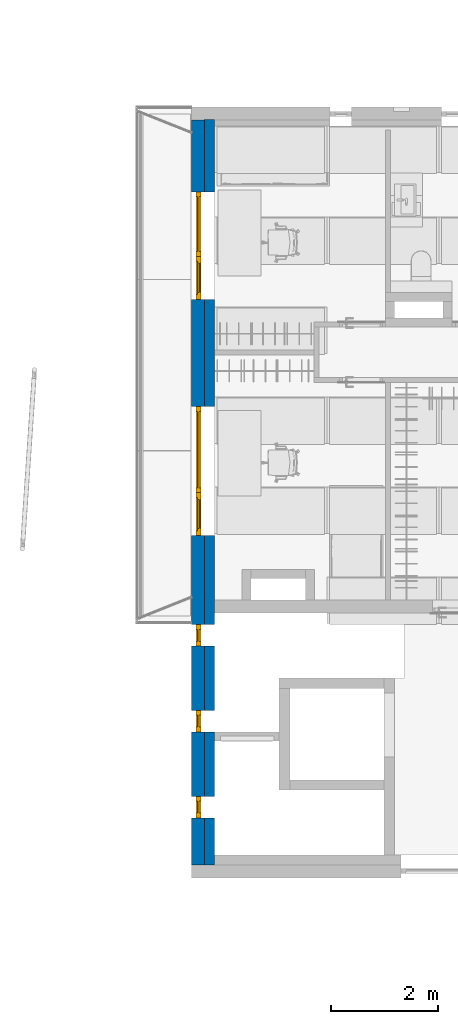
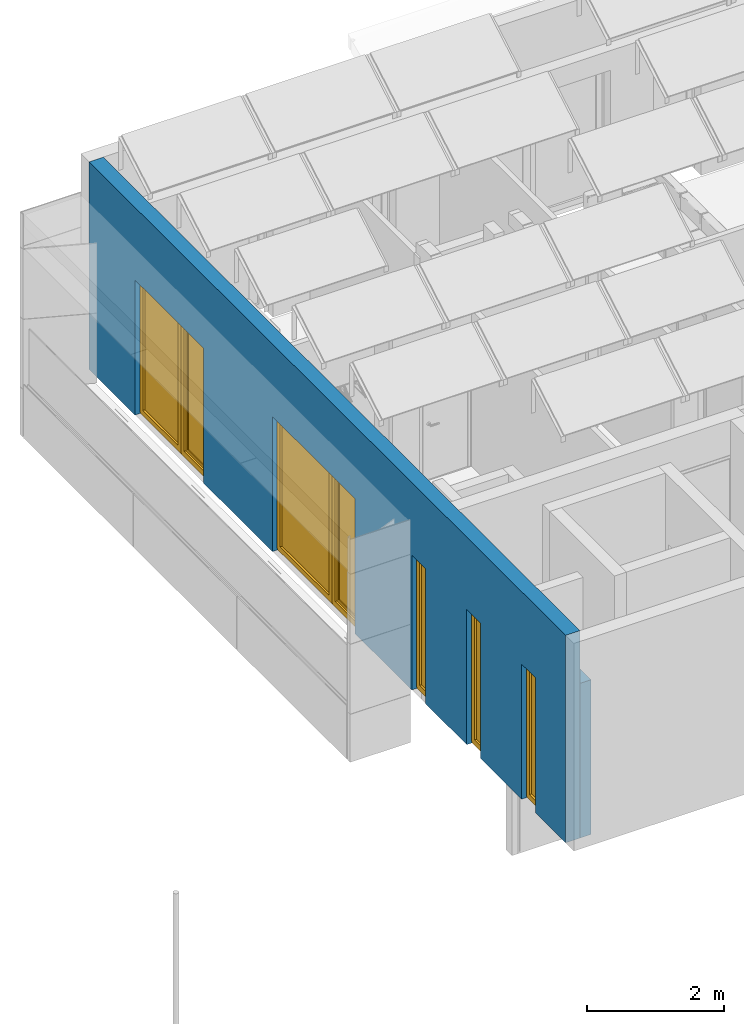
# One storey, part 4 of 57: 7 windows, 2 walls, 14 openings.
"""IFC2X3 building model written with IfcOpenShell, lengths in millimetres."""

import ifcopenshell
import ifcopenshell.guid

model = None  # the IFC model being written
_history = None  # IfcOwnerHistory: only IFC2X3 demands one
_inside = {}  # id of a spatial element -> (the spatial element, [elements in it])
_under = {}  # id of a project, library or spatial element -> (it, [spatial elements below it])
_declared = {}  # id of a project -> (the project, [libraries it declares])
_typed = {}  # id of a type object -> (the type object, [elements of that type])
_made_of = {}  # id of a material, layer set ... -> (it, [elements and type objects made of it])


def new_model(schema):
    """Start an empty IFC model of exactly this schema.

    Asked for "IFC4X3", IfcOpenShell would pick the latest addendum, in which some entities
    have other attributes; the version numbers below select the first issue.
    IFC2X3 requires an IfcOwnerHistory on every rooted entity: one is made here for all.
    """
    global model, _history
    if schema == "IFC4X3":
        model = ifcopenshell.file(schema_version=(4, 3, 0, 0))
    else:
        model = ifcopenshell.file(schema=schema)
    _inside.clear()
    _under.clear()
    _declared.clear()
    _typed.clear()
    _made_of.clear()
    _history = None
    if model.schema == "IFC2X3":
        org = make("IfcOrganization", Name="unknown")
        user = make(
            "IfcPersonAndOrganization",
            ThePerson=make("IfcPerson", FamilyName="unknown"),
            TheOrganization=org,
        )
        app = make(
            "IfcApplication",
            ApplicationDeveloper=org,
            Version="unknown",
            ApplicationFullName="unknown",
            ApplicationIdentifier="unknown",
        )
        _history = make(
            "IfcOwnerHistory",
            OwningUser=user,
            OwningApplication=app,
            ChangeAction="ADDED",
            CreationDate=0,
        )
    return model


def make(cls, **values):
    """One entity of the class cls with the attributes given. An attribute that is None is left unset."""
    return model.create_entity(
        cls, **{name: value for name, value in values.items() if value is not None}
    )


def entity(cls, *values):
    """Any entity or typed value of the class cls, its attributes in the order of the schema. None: left unset."""
    e = model.create_entity(cls)
    for i, value in enumerate(values):
        if value is not None:
            e[i] = value
    return e


def rooted(cls, **values):
    """An entity with a GlobalId (a new one), such as an element, a storey or a relation."""
    return make(cls, GlobalId=ifcopenshell.guid.new(), OwnerHistory=_history, **values)


def si_unit(unit_type, name, prefix=None):
    """IfcSIUnit, for example si_unit("LENGTHUNIT", "METRE", prefix="MILLI")."""
    return make("IfcSIUnit", UnitType=unit_type, Prefix=prefix, Name=name)


def converted_unit(unit_type, name, factor, base, dimensions=None, offset=None):
    """IfcConversionBasedUnit, such as the inch: factor (a typed value) times the base unit."""
    return make(
        "IfcConversionBasedUnit"
        if offset is None
        else "IfcConversionBasedUnitWithOffset",
        ConversionOffset=offset,
        Dimensions=None
        if dimensions is None
        else entity("IfcDimensionalExponents", *dimensions),
        UnitType=unit_type,
        Name=name,
        ConversionFactor=make(
            "IfcMeasureWithUnit", ValueComponent=factor, UnitComponent=base
        ),
    )


def assignment(units):
    """IfcUnitAssignment: the units of a project."""
    return None if units is None else make("IfcUnitAssignment", Units=units)


def point(xyz):
    """IfcCartesianPoint."""
    return None if xyz is None else make("IfcCartesianPoint", Coordinates=xyz)


def direction(xyz):
    """IfcDirection."""
    return None if xyz is None else make("IfcDirection", DirectionRatios=xyz)


def frame(location, z_axis=None, x_axis=None):
    """IfcAxis2Placement3D, a coordinate frame: its origin and axes. An axis left out is left unset."""
    return make(
        "IfcAxis2Placement3D",
        Location=point(location),
        Axis=direction(z_axis),
        RefDirection=direction(x_axis),
    )


def frame_2d(location, x_axis=None):
    """IfcAxis2Placement2D, a coordinate frame in the plane: its origin and x axis."""
    return make(
        "IfcAxis2Placement2D", Location=point(location), RefDirection=direction(x_axis)
    )


def origin():
    """The frame at (0, 0, 0) with its axes left unset."""
    return frame((0.0, 0.0, 0.0))


def place(relative_to, where):
    """IfcLocalPlacement: puts the frame where relative to a parent placement (None: the world)."""
    return make(
        "IfcLocalPlacement", PlacementRelTo=relative_to, RelativePlacement=where
    )


def context(
    kind, dimensions, precision=None, world=None, true_north=None, identifier=None
):
    """IfcGeometricRepresentationContext, for example the 3D "Model" context."""
    return make(
        "IfcGeometricRepresentationContext",
        ContextIdentifier=identifier,
        ContextType=kind,
        CoordinateSpaceDimension=dimensions,
        Precision=precision,
        WorldCoordinateSystem=world,
        TrueNorth=true_north,
    )


def subcontext(parent, identifier, kind, view, scale=None):
    """IfcGeometricRepresentationSubContext, for example "Body" below "Model"."""
    return make(
        "IfcGeometricRepresentationSubContext",
        ContextIdentifier=identifier,
        ContextType=kind,
        ParentContext=parent,
        TargetScale=scale,
        TargetView=view,
    )


def project(units=None, contexts=None):
    """IfcProject with its units and contexts."""
    return rooted(
        "IfcProject",
        Name="project",
        RepresentationContexts=contexts,
        UnitsInContext=assignment(units),
    )


def spatial(cls, under=None, at=None, **own):
    """A site, building, storey or space (cls), placed at a placement, below another one or the project."""
    s = rooted(cls, ObjectPlacement=at, **own)
    if under is not None:
        _under.setdefault(under.id(), (under, []))[1].append(s)
    return s


def polyline(points):
    """IfcPolyline through the points."""
    return make("IfcPolyline", Points=[point(p) for p in points])


def profile(cls, at=None, kind="AREA", **sizes):
    """A parametric profile (cls). Its sizes go by their IFC names, for example OverallWidth=200.0."""
    return make(cls, ProfileType=kind, Position=at, **sizes)


def rectangle(**sizes):
    """IfcRectangleProfileDef."""
    return profile("IfcRectangleProfileDef", **sizes)


def extrude(swept, where, along, depth):
    """IfcExtrudedAreaSolid: the profile swept, set in the frame where, extruded along a direction by depth."""
    return make(
        "IfcExtrudedAreaSolid",
        SweptArea=swept,
        Position=where,
        ExtrudedDirection=direction(along),
        Depth=depth,
    )


def clip(a, b, op="DIFFERENCE"):
    """IfcBooleanClippingResult: the solid a cut by the half space b."""
    return make(
        "IfcBooleanClippingResult", Operator=op, FirstOperand=a, SecondOperand=b
    )


def bounded_halfspace(plane, agree, where, boundary):
    """IfcPolygonalBoundedHalfSpace: a half space limited to a polygon's prism."""
    return make(
        "IfcPolygonalBoundedHalfSpace",
        BaseSurface=make("IfcPlane", Position=plane),
        AgreementFlag=agree,
        Position=where,
        PolygonalBoundary=boundary,
    )


def faces_of(points, faces, orient=None, outer=None):
    """IfcFace entities. A face is a list of loops; a loop is a list of indices into points, from 0.

    orient and outer hold one flag for each loop. By default every Orientation is true, the
    first loop of a face is its IfcFaceOuterBound and the others are IfcFaceBound.
    """
    made = []
    for i, loops in enumerate(faces):
        bounds = []
        for j, loop in enumerate(loops):
            is_outer = j == 0 if outer is None else outer[i][j]
            bounds.append(
                make(
                    "IfcFaceOuterBound" if is_outer else "IfcFaceBound",
                    Bound=make("IfcPolyLoop", Polygon=[points[k] for k in loop]),
                    Orientation=True if orient is None else orient[i][j],
                )
            )
        made.append(make("IfcFace", Bounds=bounds))
    return made


def faceted_brep(points, faces, orient=None, outer=None, voids=None):
    """IfcFacetedBrep: a solid bounded by flat faces; with voids (closed shells), ...WithVoids."""
    shared = [point(p) for p in points]
    hull = make("IfcClosedShell", CfsFaces=faces_of(shared, faces, orient, outer))
    if voids is None:
        return make("IfcFacetedBrep", Outer=hull)
    return make(
        "IfcFacetedBrepWithVoids",
        Outer=hull,
        Voids=[
            make(cls, CfsFaces=faces_of(shared, fs, o, b)) for cls, fs, o, b in voids
        ],
    )


def shape(context_of_items, identifier, shape_type, items):
    """IfcShapeRepresentation: the items that make up one representation, for example the "Body"."""
    return make(
        "IfcShapeRepresentation",
        ContextOfItems=context_of_items,
        RepresentationIdentifier=identifier,
        RepresentationType=shape_type,
        Items=items,
    )


def source(mapping_origin, context_of_items, identifier, shape_type, items):
    """IfcRepresentationMap: a shape defined once, which mapped items show again and again."""
    return make(
        "IfcRepresentationMap",
        MappingOrigin=mapping_origin,
        MappedRepresentation=shape(context_of_items, identifier, shape_type, items),
    )


def transform(
    local_origin,
    x_axis=None,
    y_axis=None,
    z_axis=None,
    scale=None,
    scale2=None,
    scale3=None,
    uniform=True,
):
    """IfcCartesianTransformationOperator3D, or its non-uniform kind. x_axis, y_axis, z_axis: its Axis1, 2, 3."""
    if uniform:
        return make(
            "IfcCartesianTransformationOperator3D",
            Axis1=direction(x_axis),
            Axis2=direction(y_axis),
            LocalOrigin=point(local_origin),
            Scale=scale,
            Axis3=direction(z_axis),
        )
    return make(
        "IfcCartesianTransformationOperator3DnonUniform",
        Axis1=direction(x_axis),
        Axis2=direction(y_axis),
        LocalOrigin=point(local_origin),
        Scale=scale,
        Axis3=direction(z_axis),
        Scale2=scale2,
        Scale3=scale3,
    )


def mapped(mapping_source, mapping_target):
    """IfcMappedItem: shows the shape of a source again, moved by a transform."""
    return make(
        "IfcMappedItem", MappingSource=mapping_source, MappingTarget=mapping_target
    )


def material(Name=None, Category=None):
    """IfcMaterial."""
    return make("IfcMaterial", Name=Name, Category=Category)


def material_list(materials):
    """IfcMaterialList."""
    return make("IfcMaterialList", Materials=materials)


def layer(
    of_material, thickness, ventilated=None, Name=None, Category=None, Priority=None
):
    """IfcMaterialLayer: one layer of a wall or slab, of a material (None: an air gap)."""
    return make(
        "IfcMaterialLayer",
        Material=of_material,
        LayerThickness=thickness,
        IsVentilated=ventilated,
        Name=Name,
        Category=Category,
        Priority=Priority,
    )


def layer_set(layers, Name=None):
    """IfcMaterialLayerSet."""
    return make("IfcMaterialLayerSet", MaterialLayers=layers, LayerSetName=Name)


def layer_usage(for_layer_set, set_direction, sense, offset, extent=None):
    """IfcMaterialLayerSetUsage: how a layer set lies in its element."""
    return make(
        "IfcMaterialLayerSetUsage",
        ForLayerSet=for_layer_set,
        LayerSetDirection=set_direction,
        DirectionSense=sense,
        OffsetFromReferenceLine=offset,
        ReferenceExtent=extent,
    )


def made_of(thing, what):
    """Note that an element or type object is made of a material, layer set ...; save() writes the relation."""
    if what is not None:
        _made_of.setdefault(what.id(), (what, []))[1].append(thing)
    return thing


def type_object(cls, material=None, **own):
    """A type object (cls), such as IfcWallType, which elements share."""
    return made_of(rooted(cls, **own), material)


def type_shapes(of_type, sources):
    """Give a type object the sources (RepresentationMaps) that its elements show as mapped items."""
    of_type.RepresentationMaps = sources


def element(
    cls,
    number,
    at=None,
    inside=None,
    cuts=None,
    type_object=None,
    material=None,
    context=None,
    identifier="Body",
    shape_type=None,
    held_by="IfcProductDefinitionShape",
    body=None,
    shapes=None,
    **own,
):
    """One element of the class cls, such as IfcWall. Its Tag is "e" and its number.

    at: its placement. inside: the storey or other place that contains it. cuts: it is an
    opening in that element (IfcRelVoidsElement). A single representation is given by context,
    identifier, shape_type and body (its items); several are given by shapes. held_by: the class
    of the entity that holds the representations. save() writes the other relations.
    """
    e = rooted(cls, Tag="e%d" % number, ObjectPlacement=at, **own)
    if body is not None:
        shapes = [shape(context, identifier, shape_type, body)]
    if shapes is not None:
        e.Representation = make(held_by, Representations=shapes)
    if inside is not None:
        _inside.setdefault(inside.id(), (inside, []))[1].append(e)
    if cuts is not None:
        rooted(
            "IfcRelVoidsElement", RelatingBuildingElement=cuts, RelatedOpeningElement=e
        )
    if type_object is not None:
        _typed.setdefault(type_object.id(), (type_object, []))[1].append(e)
    return made_of(e, material)


def fill(opening, filler):
    """IfcRelFillsElement: the door or window that sits in an opening."""
    return rooted(
        "IfcRelFillsElement",
        RelatingOpeningElement=opening,
        RelatedBuildingElement=filler,
    )


def aggregate(whole, parts):
    """IfcRelAggregates: a whole, such as a stair, and the parts it consists of."""
    return rooted("IfcRelAggregates", RelatingObject=whole, RelatedObjects=parts)


def save(model, path):
    """Write the relations noted so far, then the file.

    IfcRelAggregates (storeys below a building ...), IfcRelContainedInSpatialStructure (elements
    in a storey), IfcRelDefinesByType, IfcRelAssociatesMaterial and IfcRelDeclares: one each for
    every whole, place, type object, material and project.
    """
    for whole, parts in _under.values():
        aggregate(whole, parts)
    for where, things in _inside.values():
        rooted(
            "IfcRelContainedInSpatialStructure",
            RelatedElements=things,
            RelatingStructure=where,
        )
    for kind, things in _typed.values():
        rooted("IfcRelDefinesByType", RelatedObjects=things, RelatingType=kind)
    for what, things in _made_of.values():
        rooted("IfcRelAssociatesMaterial", RelatedObjects=things, RelatingMaterial=what)
    for by, libraries in _declared.values():
        rooted("IfcRelDeclares", RelatingContext=by, RelatedDefinitions=libraries)
    model.write(path)


model = new_model("IFC2X3")

# Units and contexts
model_context = context("Model", 3, precision=0.01, world=origin(), true_north=direction((6.123233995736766e-17, 1.0)))
plan_context = context("Plan", 3, precision=0.01, world=origin(), true_north=direction((6.123233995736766e-17, 1.0)))
body_context = subcontext(model_context, "Body", "Model", "MODEL_VIEW")
ifc_project = project(units=[si_unit("LENGTHUNIT", "METRE", prefix="MILLI"), converted_unit("PLANEANGLEUNIT", "DEGREE", entity("IfcPlaneAngleMeasure", 0.017453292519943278), si_unit("PLANEANGLEUNIT", "RADIAN"), dimensions=[0, 0, 0, 0, 0, 0, 0]), si_unit("AREAUNIT", "SQUARE_METRE")], contexts=[model_context, plan_context])

# Site, building, storey
site_placement = place(None, origin())
site = spatial("IfcSite", under=ifc_project, at=site_placement, Name="Default", CompositionType="ELEMENT")
building_placement = place(site_placement, origin())
building = spatial("IfcBuilding", under=site, at=building_placement, CompositionType="ELEMENT")
storey_placement = place(building_placement, frame((0.0, 0.0, 12811.000000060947)))
storey = spatial("IfcBuildingStorey", under=building, at=storey_placement, Name="5K", CompositionType="ELEMENT", Elevation=12811.000000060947)

# Wall, openings
ifc_material_1 = material(Name="_K. Väisviimistlus. Krohv. Valge")
ifc_layer_1 = layer(ifc_material_1, 5.0)
ifc_material_2 = material(Name="_K. Müüritis. Väikeplokk. Betoon-õõnesplokk")
ifc_layer_2 = layer(ifc_material_2, 190.00000000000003)
ifc_layer_3 = layer(ifc_material_1, 5.0)
ifc_layer_set_1 = layer_set([ifc_layer_1, ifc_layer_2, ifc_layer_3], Name="Basic Wall:SS-01. 190")
ifc_layer_usage_1 = layer_usage(ifc_layer_set_1, "AXIS2", "NEGATIVE", 100.00000000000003)
wall_type_1 = type_object("IfcWallType", Name="Basic Wall:SS-01. 190", PredefinedType="STANDARD", material=ifc_layer_set_1)
wall_1_placement = place(storey_placement, frame((-100.0, 1710.0, 0.0), z_axis=(0.0, 0.0, 1.0), x_axis=(0.0, 1.0, 0.0)))
wall_1 = element("IfcWallStandardCase", 1, at=wall_1_placement, inside=storey, type_object=wall_type_1, material=ifc_layer_usage_1, Name="Basic Wall:SS-01. 190", ObjectType="Basic Wall:SS-01. 190", context=body_context, shape_type="Clipping", body=[
    clip(clip(extrude(rectangle(XDim=13889.999999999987, YDim=200.00000000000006, at=frame_2d((6944.999999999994, 2.1316282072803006e-14), x_axis=(-1.0, 0.0))), origin(), (0.0, 0.0, 1.0), 2749.998712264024), bounded_halfspace(frame((13880.0, 90.0, 2749.9987122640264), z_axis=(0.0, -1.0, 0.0), x_axis=(1.0, 0.0, 0.0)), True, frame((13880.0, 90.0, 2749.9987122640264), z_axis=(0.0, -1.0, 0.0), x_axis=(1.0, 0.0, 0.0)), polyline([(0.0, 0.0), (-13880.0, 0.0), (-13880.0, -2749.9987122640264), (-13000.0, -2749.9987122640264), (-13000.0, -349.99871226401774), (-12600.0, -349.9987122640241), (-12600.0, -2749.9987122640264), (-11400.0, -2749.9987122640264), (-11400.0, -349.99871226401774), (-11000.0, -349.9987122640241), (-11000.0, -2749.9987122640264), (-9800.0, -2749.9987122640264), (-9800.0, -349.99871226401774), (-9400.0, -349.9987122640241), (-9400.0, -2749.9987122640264), (-7740.0, -2749.9987122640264), (-7740.0, -349.99871226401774), (-5340.0, -349.9987122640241), (-5340.0, -2749.9987122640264), (-3340.0, -2749.9987122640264), (-3340.0, -349.99871226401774), (-1340.0, -349.9987122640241), (-1340.0, -2749.9987122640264), (0.0, -2749.9987122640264), (0.0, 0.0)]))), bounded_halfspace(frame((13880.0, 90.0, 0.0), z_axis=(-1.0, 0.0, 0.0), x_axis=(0.0, -1.0, 0.0)), False, frame((13880.0, 90.0, 0.0), z_axis=(-1.0, 0.0, 0.0), x_axis=(0.0, -1.0, 0.0)), polyline([(0.0, 0.0), (0.0, 2749.9987122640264), (-10.0, 2749.9987122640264), (-10.0, 0.0), (0.0, 0.0)]))),
])
opening_1_placement = place(wall_1_placement, frame((-1710.0, -100.0, 0.0)))
element("IfcOpeningElement", 2, at=opening_1_placement, cuts=wall_1, Name="Basic Wall:SS-01. 190", ObjectType="Opening", context=body_context, shape_type="Brep", body=[
    faceted_brep([(13050.0, 450.0, 2400.0), (13050.0, -244.0, 2400.0), (13050.0, -244.0, 0.0), (13050.0, 340.0, 0.0), (13050.0, 350.0, 0.0), (13050.0, 450.0, 0.0), (12250.0, 450.0, 2400.0), (12250.0, -244.0, 2400.0), (12250.0, 450.0, 0.0), (12250.0, 350.0, 0.0), (12250.0, 340.0, 0.0), (12250.0, -244.0, 0.0)], [[[0, 1, 2, 3, 4, 5]], [[6, 7, 1, 0]], [[8, 9, 10, 11, 7, 6]], [[5, 4, 3, 2, 11, 10, 9, 8]], [[6, 0, 5, 8]], [[7, 11, 2, 1]]]),
])
opening_2_placement = place(wall_1_placement, frame((-1710.0, -100.0, 0.0)))
element("IfcOpeningElement", 3, at=opening_2_placement, cuts=wall_1, Name="Basic Wall:SS-01. 190", ObjectType="Opening", context=body_context, shape_type="Brep", body=[
    faceted_brep([(8650.0, 450.0, 2400.0), (8650.0, -244.0, 2400.0), (8650.0, -244.0, 0.0), (8650.0, 340.0, 0.0), (8650.0, 350.0, 0.0), (8650.0, 450.0, 0.0), (7850.0, 450.0, 2400.0), (7850.0, -244.0, 2400.0), (7850.0, 450.0, 0.0), (7850.0, 350.0, 0.0), (7850.0, 340.0, 0.0), (7850.0, -244.0, 0.0)], [[[0, 1, 2, 3, 4, 5]], [[6, 7, 1, 0]], [[8, 9, 10, 11, 7, 6]], [[5, 4, 3, 2, 11, 10, 9, 8]], [[6, 0, 5, 8]], [[7, 11, 2, 1]]]),
])
opening_3_placement = place(wall_1_placement, frame((-1710.0, -100.0, 0.0)))
element("IfcOpeningElement", 4, at=opening_3_placement, cuts=wall_1, Name="Basic Wall:SS-01. 190", ObjectType="Opening", context=body_context, shape_type="Brep", body=[
    faceted_brep([(6190.0, 450.0, 2400.0), (6190.0, -244.0, 2400.0), (6190.0, -244.0, 0.0), (6190.0, 340.0, 0.0), (6190.0, 350.0, 0.0), (6190.0, 450.0, 0.0), (5790.0, 450.0, 2400.0), (5790.0, -244.0, 2400.0), (5790.0, 450.0, 0.0), (5790.0, 350.0, 0.0), (5790.0, 340.0, 0.0), (5790.0, -244.0, 0.0)], [[[0, 1, 2, 3, 4, 5]], [[6, 7, 1, 0]], [[8, 9, 10, 11, 7, 6]], [[5, 4, 3, 2, 11, 10, 9, 8]], [[6, 0, 5, 8]], [[7, 11, 2, 1]]]),
])
opening_4_placement = place(wall_1_placement, frame((-1710.0, -100.0, 0.0)))
element("IfcOpeningElement", 5, at=opening_4_placement, cuts=wall_1, Name="Basic Wall:SS-01. 190", ObjectType="Opening", context=body_context, shape_type="Brep", body=[
    faceted_brep([(4590.0, 450.0, 2400.0), (4590.0, -244.0, 2400.0), (4590.0, -244.0, 0.0), (4590.0, 340.0, 0.0), (4590.0, 350.0, 0.0), (4590.0, 450.0, 0.0), (4190.0, 450.0, 2400.0), (4190.0, -244.0, 2400.0), (4190.0, 450.0, 0.0), (4190.0, 350.0, 0.0), (4190.0, 340.0, 0.0), (4190.0, -244.0, 0.0)], [[[0, 1, 2, 3, 4, 5]], [[6, 7, 1, 0]], [[8, 9, 10, 11, 7, 6]], [[5, 4, 3, 2, 11, 10, 9, 8]], [[6, 0, 5, 8]], [[7, 11, 2, 1]]]),
])
opening_5_placement = place(wall_1_placement, frame((-1710.0, -100.0, 0.0)))
element("IfcOpeningElement", 6, at=opening_5_placement, cuts=wall_1, Name="Basic Wall:SS-01. 190", ObjectType="Opening", context=body_context, shape_type="Brep", body=[
    faceted_brep([(2990.0, 450.0, 2400.0), (2990.0, -244.0, 2400.0), (2990.0, -244.0, 0.0), (2990.0, 340.0, 0.0), (2990.0, 350.0, 0.0), (2990.0, 450.0, 0.0), (2590.0, 450.0, 2400.0), (2590.0, -244.0, 2400.0), (2590.0, 450.0, 0.0), (2590.0, 350.0, 0.0), (2590.0, 340.0, 0.0), (2590.0, -244.0, 0.0)], [[[0, 1, 2, 3, 4, 5]], [[6, 7, 1, 0]], [[8, 9, 10, 11, 7, 6]], [[5, 4, 3, 2, 11, 10, 9, 8]], [[6, 0, 5, 8]], [[7, 11, 2, 1]]]),
])
opening_6_placement = place(wall_1_placement, frame((-1710.0, -100.0, 0.0)))
element("IfcOpeningElement", 7, at=opening_6_placement, cuts=wall_1, Name="Basic Wall:SS-01. 190", ObjectType="Opening", context=body_context, shape_type="Brep", body=[
    faceted_brep([(10250.0, 450.0, 2400.0), (10250.0, -244.0, 2400.0), (10250.0, -244.0, 0.0), (10250.0, 340.0, 0.0), (10250.0, 350.0, 0.0), (10250.0, 450.0, 0.0), (8650.0, 450.0, 2400.0), (8650.0, -244.0, 2400.0), (8650.0, 450.0, 0.0), (8650.0, 350.0, 0.0), (8650.0, 340.0, 0.0), (8650.0, -244.0, 0.0)], [[[0, 1, 2, 3, 4, 5]], [[6, 7, 1, 0]], [[8, 9, 10, 11, 7, 6]], [[5, 4, 3, 2, 11, 10, 9, 8]], [[6, 0, 5, 8]], [[7, 11, 2, 1]]]),
])
opening_7_placement = place(wall_1_placement, frame((-1710.0, -100.0, 0.0)))
element("IfcOpeningElement", 8, at=opening_7_placement, cuts=wall_1, Name="Basic Wall:SS-01. 190", ObjectType="Opening", context=body_context, shape_type="Brep", body=[
    faceted_brep([(14250.0, 450.0, 2400.0), (14250.0, -244.0, 2400.0), (14250.0, -244.0, 0.0), (14250.0, 340.0, 0.0), (14250.0, 350.0, 0.0), (14250.0, 450.0, 0.0), (13050.0, 450.0, 2400.0), (13050.0, -244.0, 2400.0), (13050.0, 450.0, 0.0), (13050.0, 350.0, 0.0), (13050.0, 340.0, 0.0), (13050.0, -244.0, 0.0)], [[[0, 1, 2, 3, 4, 5]], [[6, 7, 1, 0]], [[8, 9, 10, 11, 7, 6]], [[5, 4, 3, 2, 11, 10, 9, 8]], [[6, 0, 5, 8]], [[7, 11, 2, 1]]]),
])

# Wall, openings, windows
ifc_layer_4 = layer(ifc_material_1, 10.0)
ifc_material_3 = material(Name="_K. Soojustus. EPS Silver")
ifc_layer_5 = layer(ifc_material_3, 230.0)
ifc_layer_set_2 = layer_set([ifc_layer_4, ifc_layer_5], Name="Basic Wall:VS-01")
ifc_layer_usage_2 = layer_usage(ifc_layer_set_2, "AXIS2", "NEGATIVE", 120.0)
wall_type_2 = type_object("IfcWallType", Name="Basic Wall:VS-01", PredefinedType="STANDARD", material=ifc_layer_set_2)
wall_2_placement = place(storey_placement, frame((-310.0, 1710.0, 0.0), z_axis=(0.0, 0.0, 1.0), x_axis=(0.0, 1.0, 0.0)))
wall_2 = element("IfcWallStandardCase", 9, at=wall_2_placement, inside=storey, type_object=wall_type_2, material=ifc_layer_usage_2, Name="Basic Wall:VS-01", ObjectType="Basic Wall:VS-01", context=body_context, shape_type="SweptSolid", body=[
    extrude(rectangle(XDim=13879.999999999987, YDim=240.0, at=frame_2d((6939.999999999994, 0.0), x_axis=(-1.0, 0.0))), origin(), (0.0, 0.0, 1.0), 3688.9999999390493),
])
opening_8_placement = place(wall_2_placement, frame((-1710.0, -310.0, 0.0), z_axis=(0.0, 0.0, 1.0), x_axis=(0.0, -1.0, 0.0)))
opening_8 = element("IfcOpeningElement", 10, at=opening_8_placement, cuts=wall_2, Name="Basic Wall:VS-01", ObjectType="Opening", context=body_context, shape_type="Brep", body=[
    faceted_brep([(-450.0, 13050.0, 2400.0), (244.0, 13050.0, 2400.0), (244.0, 13050.0, 0.0), (-340.0, 13050.0, 0.0), (-350.0, 13050.0, 0.0), (-450.0, 13050.0, 0.0), (-450.0, 12250.0, 2400.0), (244.0, 12250.0, 2400.0), (-450.0, 12250.0, 0.0), (-350.0, 12250.0, 0.0), (-340.0, 12250.0, 0.0), (244.0, 12250.0, 0.0)], [[[0, 1, 2, 3, 4, 5]], [[6, 7, 1, 0]], [[8, 9, 10, 11, 7, 6]], [[5, 4, 3, 2, 11, 10, 9, 8]], [[6, 0, 5, 8]], [[7, 11, 2, 1]]]),
])
opening_9_placement = place(wall_2_placement, frame((-1710.0, -310.0, 0.0), z_axis=(0.0, 0.0, 1.0), x_axis=(0.0, -1.0, 0.0)))
opening_9 = element("IfcOpeningElement", 11, at=opening_9_placement, cuts=wall_2, Name="Basic Wall:VS-01", ObjectType="Opening", context=body_context, shape_type="Brep", body=[
    faceted_brep([(-450.0, 8650.0, 2400.0), (244.0, 8650.0, 2400.0), (244.0, 8650.0, 0.0), (-340.0, 8650.0, 0.0), (-350.0, 8650.0, 0.0), (-450.0, 8650.0, 0.0), (-450.0, 7850.0, 2400.0), (244.0, 7850.0, 2400.0), (-450.0, 7850.0, 0.0), (-350.0, 7850.0, 0.0), (-340.0, 7850.0, 0.0), (244.0, 7850.0, 0.0)], [[[0, 1, 2, 3, 4, 5]], [[6, 7, 1, 0]], [[8, 9, 10, 11, 7, 6]], [[5, 4, 3, 2, 11, 10, 9, 8]], [[6, 0, 5, 8]], [[7, 11, 2, 1]]]),
])
opening_10_placement = place(wall_2_placement, frame((-1710.0, -310.0, 0.0), z_axis=(0.0, 0.0, 1.0), x_axis=(0.0, -1.0, 0.0)))
opening_10 = element("IfcOpeningElement", 12, at=opening_10_placement, cuts=wall_2, Name="Basic Wall:VS-01", ObjectType="Opening", context=body_context, shape_type="Brep", body=[
    faceted_brep([(-450.0, 6190.0, 2400.0), (244.0, 6190.0, 2400.0), (244.0, 6190.0, 0.0), (-340.0, 6190.0, 0.0), (-350.0, 6190.0, 0.0), (-450.0, 6190.0, 0.0), (-450.0, 5790.0, 2400.0), (244.0, 5790.0, 2400.0), (-450.0, 5790.0, 0.0), (-350.0, 5790.0, 0.0), (-340.0, 5790.0, 0.0), (244.0, 5790.0, 0.0)], [[[0, 1, 2, 3, 4, 5]], [[6, 7, 1, 0]], [[8, 9, 10, 11, 7, 6]], [[5, 4, 3, 2, 11, 10, 9, 8]], [[6, 0, 5, 8]], [[7, 11, 2, 1]]]),
])
opening_11_placement = place(wall_2_placement, frame((-1710.0, -310.0, 0.0), z_axis=(0.0, 0.0, 1.0), x_axis=(0.0, -1.0, 0.0)))
opening_11 = element("IfcOpeningElement", 13, at=opening_11_placement, cuts=wall_2, Name="Basic Wall:VS-01", ObjectType="Opening", context=body_context, shape_type="Brep", body=[
    faceted_brep([(-450.0, 4590.0, 2400.0), (244.0, 4590.0, 2400.0), (244.0, 4590.0, 0.0), (-340.0, 4590.0, 0.0), (-350.0, 4590.0, 0.0), (-450.0, 4590.0, 0.0), (-450.0, 4190.0, 2400.0), (244.0, 4190.0, 2400.0), (-450.0, 4190.0, 0.0), (-350.0, 4190.0, 0.0), (-340.0, 4190.0, 0.0), (244.0, 4190.0, 0.0)], [[[0, 1, 2, 3, 4, 5]], [[6, 7, 1, 0]], [[8, 9, 10, 11, 7, 6]], [[5, 4, 3, 2, 11, 10, 9, 8]], [[6, 0, 5, 8]], [[7, 11, 2, 1]]]),
])
opening_12_placement = place(wall_2_placement, frame((-1710.0, -310.0, 0.0), z_axis=(0.0, 0.0, 1.0), x_axis=(0.0, -1.0, 0.0)))
opening_12 = element("IfcOpeningElement", 14, at=opening_12_placement, cuts=wall_2, Name="Basic Wall:VS-01", ObjectType="Opening", context=body_context, shape_type="Brep", body=[
    faceted_brep([(-450.0, 2990.0, 2400.0), (244.0, 2990.0, 2400.0), (244.0, 2990.0, 0.0), (-340.0, 2990.0, 0.0), (-350.0, 2990.0, 0.0), (-450.0, 2990.0, 0.0), (-450.0, 2590.0, 2400.0), (244.0, 2590.0, 2400.0), (-450.0, 2590.0, 0.0), (-350.0, 2590.0, 0.0), (-340.0, 2590.0, 0.0), (244.0, 2590.0, 0.0)], [[[0, 1, 2, 3, 4, 5]], [[6, 7, 1, 0]], [[8, 9, 10, 11, 7, 6]], [[5, 4, 3, 2, 11, 10, 9, 8]], [[6, 0, 5, 8]], [[7, 11, 2, 1]]]),
])
opening_13_placement = place(wall_2_placement, frame((-1710.0, -310.0, 0.0), z_axis=(0.0, 0.0, 1.0), x_axis=(0.0, -1.0, 0.0)))
opening_13 = element("IfcOpeningElement", 15, at=opening_13_placement, cuts=wall_2, Name="Basic Wall:VS-01", ObjectType="Opening", context=body_context, shape_type="Brep", body=[
    faceted_brep([(-450.0, 10250.0, 2400.0), (244.0, 10250.0, 2400.0), (244.0, 10250.0, 0.0), (-340.0, 10250.0, 0.0), (-350.0, 10250.0, 0.0), (-450.0, 10250.0, 0.0), (-450.0, 8650.0, 2400.0), (244.0, 8650.0, 2400.0), (-450.0, 8650.0, 0.0), (-350.0, 8650.0, 0.0), (-340.0, 8650.0, 0.0), (244.0, 8650.0, 0.0)], [[[0, 1, 2, 3, 4, 5]], [[6, 7, 1, 0]], [[8, 9, 10, 11, 7, 6]], [[5, 4, 3, 2, 11, 10, 9, 8]], [[6, 0, 5, 8]], [[7, 11, 2, 1]]]),
])
opening_14_placement = place(wall_2_placement, frame((-1710.0, -310.0, 0.0), z_axis=(0.0, 0.0, 1.0), x_axis=(0.0, -1.0, 0.0)))
opening_14 = element("IfcOpeningElement", 16, at=opening_14_placement, cuts=wall_2, Name="Basic Wall:VS-01", ObjectType="Opening", context=body_context, shape_type="Brep", body=[
    faceted_brep([(-450.0, 14250.0, 2400.0), (244.0, 14250.0, 2400.0), (244.0, 14250.0, 0.0), (-340.0, 14250.0, 0.0), (-350.0, 14250.0, 0.0), (-450.0, 14250.0, 0.0), (-450.0, 13050.0, 2400.0), (244.0, 13050.0, 2400.0), (-450.0, 13050.0, 0.0), (-350.0, 13050.0, 0.0), (-340.0, 13050.0, 0.0), (244.0, 13050.0, 0.0)], [[[0, 1, 2, 3, 4, 5]], [[6, 7, 1, 0]], [[8, 9, 10, 11, 7, 6]], [[5, 4, 3, 2, 11, 10, 9, 8]], [[6, 0, 5, 8]], [[7, 11, 2, 1]]]),
])
ifc_material_4 = material(Name="_K. Avatäited. Raam. PVC. Valge")
ifc_material_5 = material(Name="_K. Klaas. Pakett")
ifc_material_6 = material(Name="_K. Avatäited. Raam. PVC. RAL9005")
ifc_material_list_1 = material_list([ifc_material_4, ifc_material_5, ifc_material_6])
window_style_1 = type_object("IfcWindowStyle", Name="HR_Window_Generic_Rectangle_1x1:A-01.400x2400.ma", ConstructionType="NOTDEFINED", OperationType="NOTDEFINED", ParameterTakesPrecedence=False, Sizeable=False, material=ifc_material_list_1)
shared_shape_1 = source(origin(), body_context, "Body", "Brep", [
    faceted_brep([(88.0, -194.0, 2312.0), (312.0, -194.0, 2312.0), (312.0, -194.0, 108.0), (88.0, -194.0, 108.0), (342.0, -194.0, 2342.0), (58.0, -194.0, 2342.0), (58.0, -194.0, 78.0), (342.0, -194.0, 78.0), (88.0, -159.0, 2312.0), (88.0, -159.0, 108.0), (312.0, -159.0, 108.0), (342.0, -159.0, 2342.0), (342.0, -159.0, 78.0), (58.0, -159.0, 78.0), (58.0, -159.0, 2342.0), (312.0, -159.0, 2312.0)], [[[0, 1, 2, 3], [4, 5, 6, 7]], [[8, 0, 3, 9]], [[9, 3, 2, 10]], [[11, 12, 13, 14], [15, 8, 9, 10]], [[1, 15, 10, 2]], [[6, 5, 14, 13]], [[7, 6, 13, 12]], [[4, 7, 12, 11]], [[15, 1, 0, 8]], [[5, 4, 11, 14]]], outer=[[False, True], [True], [True], [True, False], [True], [True], [True], [True], [True], [True]]),
    faceted_brep([(342.0, -159.0, 2342.0), (58.0, -159.0, 2342.0), (58.0, -159.0, 78.0), (342.0, -159.0, 78.0), (58.0, -134.0, 2342.0), (58.0, -134.0, 78.0), (342.0, -134.0, 78.0), (342.0, -134.0, 2342.0)], [[[0, 1, 2, 3]], [[2, 1, 4, 5]], [[3, 2, 5, 6]], [[0, 3, 6, 7]], [[7, 6, 5, 4]], [[1, 0, 7, 4]]]),
    faceted_brep([(342.0, -134.0, 78.0), (58.0, -134.0, 78.0), (58.0, -194.0, 78.0), (342.0, -194.0, 78.0), (58.0, -134.0, 2342.0), (58.0, -194.0, 2342.0), (342.0, -134.0, 2342.0), (342.0, -194.0, 2342.0), (88.0, -100.0, 108.0), (88.0, -100.0, 2312.0), (88.0, -134.0, 2312.0), (88.0, -134.0, 108.0), (312.0, -100.0, 108.0), (312.0, -134.0, 108.0), (312.0, -100.0, 2312.0), (312.0, -134.0, 2312.0), (0.0, -100.0, 2400.0), (400.0, -100.0, 2400.0), (400.0, -100.0, 30.0), (0.0, -100.0, 30.0), (400.0, -194.0, 2400.0), (0.0, -194.0, 2400.0), (0.0, -194.0, 30.0), (400.0, -194.0, 30.0), (0.0, -110.0, 30.0), (0.0, -110.0, 0.0), (0.0, -184.0, 0.0), (0.0, -184.0, 30.0), (400.0, -184.0, 30.0), (400.0, -184.0, 0.0), (400.0, -110.0, 0.0), (400.0, -110.0, 30.0)], [[[0, 1, 2, 3]], [[1, 4, 5, 2]], [[6, 0, 3, 7]], [[8, 9, 10, 11]], [[12, 8, 11, 13]], [[14, 12, 13, 15]], [[16, 17, 18, 19], [9, 8, 12, 14]], [[20, 21, 22, 23], [7, 3, 2, 5]], [[21, 16, 19, 24, 25, 26, 27, 22]], [[27, 28, 23, 22]], [[17, 20, 23, 28, 29, 30, 31, 18]], [[31, 24, 19, 18]], [[24, 31, 30, 25]], [[25, 30, 29, 26]], [[28, 27, 26, 29]], [[4, 6, 7, 5]], [[9, 14, 15, 10]], [[21, 20, 17, 16]], [[10, 15, 13, 11], [0, 6, 4, 1]]], outer=[[True], [True], [True], [True], [True], [True], [True, False], [True, False], [True], [True], [True], [True], [True], [True], [True], [True], [True], [True], [False, True]]),
])
type_shapes(window_style_1, [shared_shape_1])
window_1_placement = place(opening_10_placement, frame((-450.0, 5790.0, 0.0), z_axis=(0.0, 0.0, 1.0), x_axis=(0.0, 1.0, 0.0)))
window_1 = element("IfcWindow", 17, at=window_1_placement, inside=storey, type_object=window_style_1, material=ifc_material_list_1, Name="HR_Window_Generic_Rectangle_1x1:A-01.400x2400.ma", ObjectType="HR_Window_Generic_Rectangle_1x1:A-01.400x2400.ma", OverallHeight=2465.0000000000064, OverallWidth=400.0000000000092, context=body_context, shape_type="MappedRepresentation", body=[
    mapped(shared_shape_1, transform((0.0, 0.0, 0.0), scale=1.0)),
])
fill(opening_10, window_1)
window_2_placement = place(opening_11_placement, frame((-450.0, 4190.0, 0.0), z_axis=(0.0, 0.0, 1.0), x_axis=(0.0, 1.0, 0.0)))
window_2 = element("IfcWindow", 18, at=window_2_placement, inside=storey, type_object=window_style_1, material=ifc_material_list_1, Name="HR_Window_Generic_Rectangle_1x1:A-01.400x2400.ma", ObjectType="HR_Window_Generic_Rectangle_1x1:A-01.400x2400.ma", OverallHeight=2465.0000000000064, OverallWidth=400.0000000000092, context=body_context, shape_type="MappedRepresentation", body=[
    mapped(shared_shape_1, transform((0.0, 0.0, 0.0), scale=1.0)),
])
fill(opening_11, window_2)
window_3_placement = place(opening_12_placement, frame((-450.0, 2590.0, 0.0), z_axis=(0.0, 0.0, 1.0), x_axis=(0.0, 1.0, 0.0)))
window_3 = element("IfcWindow", 19, at=window_3_placement, inside=storey, type_object=window_style_1, material=ifc_material_list_1, Name="HR_Window_Generic_Rectangle_1x1:A-01.400x2400.ma", ObjectType="HR_Window_Generic_Rectangle_1x1:A-01.400x2400.ma", OverallHeight=2465.0000000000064, OverallWidth=400.0000000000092, context=body_context, shape_type="MappedRepresentation", body=[
    mapped(shared_shape_1, transform((0.0, 0.0, 0.0), scale=1.0)),
])
fill(opening_12, window_3)
ifc_material_list_2 = material_list([ifc_material_5, ifc_material_6])
window_style_2 = type_object("IfcWindowStyle", Name="HR_Window_Generic_Rectangle_1x1:A-10.800x2400.P", ConstructionType="NOTDEFINED", OperationType="NOTDEFINED", ParameterTakesPrecedence=False, Sizeable=False, material=ifc_material_list_2)
shared_shape_2 = source(origin(), body_context, "Body", "Brep", [
    faceted_brep([(108.0, -154.0, 2292.0), (692.0, -154.0, 2292.0), (692.0, -154.0, 128.0), (108.0, -154.0, 128.0), (692.0, -179.0, 2292.0), (692.0, -179.0, 128.0), (108.0, -179.0, 128.0), (108.0, -179.0, 2292.0)], [[[0, 1, 2, 3]], [[2, 1, 4, 5]], [[3, 2, 5, 6]], [[0, 3, 6, 7]], [[7, 6, 5, 4]], [[1, 0, 7, 4]]]),
    faceted_brep([(692.0, -154.0, 2292.0), (692.0, -154.0, 128.0), (692.0, -179.0, 128.0), (692.0, -179.0, 2292.0), (742.0, -134.0, 2342.0), (58.0, -134.0, 2342.0), (58.0, -194.0, 2342.0), (742.0, -194.0, 2342.0), (128.0, -154.0, 2272.0), (128.0, -134.0, 2272.0), (672.0, -134.0, 2272.0), (672.0, -154.0, 2272.0), (128.0, -179.0, 2272.0), (128.0, -194.0, 2272.0), (128.0, -194.0, 148.0), (128.0, -179.0, 148.0), (742.0, -134.0, 78.0), (742.0, -194.0, 78.0), (58.0, -194.0, 78.0), (58.0, -134.0, 78.0), (672.0, -194.0, 2272.0), (672.0, -194.0, 148.0), (128.0, -134.0, 148.0), (672.0, -134.0, 148.0), (128.0, -154.0, 148.0), (672.0, -154.0, 148.0), (108.0, -154.0, 128.0), (108.0, -179.0, 128.0), (108.0, -154.0, 2292.0), (108.0, -179.0, 2292.0), (672.0, -179.0, 2272.0), (672.0, -179.0, 148.0)], [[[0, 1, 2, 3]], [[4, 5, 6, 7]], [[8, 9, 10, 11]], [[12, 13, 14, 15]], [[16, 17, 18, 19]], [[4, 7, 17, 16]], [[13, 20, 21, 14], [7, 6, 18, 17]], [[6, 5, 19, 18]], [[5, 4, 16, 19], [10, 9, 22, 23]], [[9, 8, 24, 22]], [[25, 23, 22, 24]], [[11, 10, 23, 25]], [[1, 26, 27, 2]], [[26, 28, 29, 27]], [[28, 26, 1, 0], [8, 11, 25, 24]], [[28, 0, 3, 29]], [[20, 30, 31, 21]], [[21, 31, 15, 14]], [[29, 3, 2, 27], [30, 12, 15, 31]], [[13, 12, 30, 20]]], outer=[[True], [True], [True], [True], [True], [True], [False, True], [True], [True, False], [True], [True], [True], [True], [True], [True, False], [True], [True], [True], [True, False], [True]]),
    faceted_brep([(742.0, -134.0, 78.0), (58.0, -134.0, 78.0), (58.0, -194.0, 78.0), (742.0, -194.0, 78.0), (58.0, -134.0, 2342.0), (58.0, -194.0, 2342.0), (742.0, -134.0, 2342.0), (742.0, -194.0, 2342.0), (88.0, -100.0, 108.0), (88.0, -100.0, 2312.0), (88.0, -134.0, 2312.0), (88.0, -134.0, 108.0), (712.0, -100.0, 108.0), (712.0, -134.0, 108.0), (712.0, -100.0, 2312.0), (712.0, -134.0, 2312.0), (0.0, -100.0, 2400.0), (800.0, -100.0, 2400.0), (800.0, -100.0, 30.0), (0.0, -100.0, 30.0), (800.0, -194.0, 2400.0), (0.0, -194.0, 2400.0), (0.0, -194.0, 30.0), (800.0, -194.0, 30.0), (0.0, -110.0, 30.0), (0.0, -110.0, 0.0), (0.0, -184.0, 0.0), (0.0, -184.0, 30.0), (800.0, -184.0, 30.0), (800.0, -184.0, 0.0), (800.0, -110.0, 0.0), (800.0, -110.0, 30.0)], [[[0, 1, 2, 3]], [[1, 4, 5, 2]], [[6, 0, 3, 7]], [[8, 9, 10, 11]], [[12, 8, 11, 13]], [[14, 12, 13, 15]], [[16, 17, 18, 19], [9, 8, 12, 14]], [[20, 21, 22, 23], [7, 3, 2, 5]], [[21, 16, 19, 24, 25, 26, 27, 22]], [[27, 28, 23, 22]], [[17, 20, 23, 28, 29, 30, 31, 18]], [[31, 24, 19, 18]], [[24, 31, 30, 25]], [[25, 30, 29, 26]], [[28, 27, 26, 29]], [[4, 6, 7, 5]], [[9, 14, 15, 10]], [[21, 20, 17, 16]], [[10, 15, 13, 11], [0, 6, 4, 1]]], outer=[[True], [True], [True], [True], [True], [True], [True, False], [True, False], [True], [True], [True], [True], [True], [True], [True], [True], [True], [True], [False, True]]),
])
type_shapes(window_style_2, [shared_shape_2])
window_4_placement = place(opening_8_placement, frame((-450.0, 12250.0, 0.0), z_axis=(0.0, 0.0, 1.0), x_axis=(0.0, 1.0, 0.0)))
window_4 = element("IfcWindow", 20, at=window_4_placement, inside=storey, type_object=window_style_2, material=ifc_material_list_2, Name="HR_Window_Generic_Rectangle_1x1:A-10.800x2400.P", ObjectType="HR_Window_Generic_Rectangle_1x1:A-10.800x2400.P", OverallHeight=2465.0000000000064, OverallWidth=800.000000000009, context=body_context, shape_type="MappedRepresentation", body=[
    mapped(shared_shape_2, transform((0.0, 0.0, 0.0), scale=1.0)),
])
fill(opening_8, window_4)
window_5_placement = place(opening_9_placement, frame((-450.0, 7850.0, 0.0), z_axis=(0.0, 0.0, 1.0), x_axis=(0.0, 1.0, 0.0)))
window_5 = element("IfcWindow", 21, at=window_5_placement, inside=storey, type_object=window_style_2, material=ifc_material_list_2, Name="HR_Window_Generic_Rectangle_1x1:A-10.800x2400.P", ObjectType="HR_Window_Generic_Rectangle_1x1:A-10.800x2400.P", OverallHeight=2465.0000000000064, OverallWidth=800.000000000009, context=body_context, shape_type="MappedRepresentation", body=[
    mapped(shared_shape_2, transform((0.0, 0.0, 0.0), scale=1.0)),
])
fill(opening_9, window_5)
window_style_3 = type_object("IfcWindowStyle", Name="HR_Window_Generic_Rectangle_1x1:A-04.1600x2400.ma", ConstructionType="NOTDEFINED", OperationType="NOTDEFINED", ParameterTakesPrecedence=False, Sizeable=False, material=ifc_material_list_1)
shared_shape_3 = source(origin(), body_context, "Body", "Brep", [
    faceted_brep([(88.0, -194.0, 2312.0), (1512.0, -194.0, 2312.0), (1512.0, -194.0, 108.0), (88.0, -194.0, 108.0), (1542.0, -194.0, 2342.0), (58.0, -194.0, 2342.0), (58.0, -194.0, 78.0), (1542.0, -194.0, 78.0), (88.0, -159.0, 2312.0), (88.0, -159.0, 108.0), (1512.0, -159.0, 108.0), (1542.0, -159.0, 2342.0), (1542.0, -159.0, 78.0), (58.0, -159.0, 78.0), (58.0, -159.0, 2342.0), (1512.0, -159.0, 2312.0)], [[[0, 1, 2, 3], [4, 5, 6, 7]], [[8, 0, 3, 9]], [[9, 3, 2, 10]], [[11, 12, 13, 14], [15, 8, 9, 10]], [[1, 15, 10, 2]], [[6, 5, 14, 13]], [[7, 6, 13, 12]], [[4, 7, 12, 11]], [[15, 1, 0, 8]], [[5, 4, 11, 14]]], outer=[[False, True], [True], [True], [True, False], [True], [True], [True], [True], [True], [True]]),
    faceted_brep([(1542.0, -159.0, 2342.0), (58.0, -159.0, 2342.0), (58.0, -159.0, 78.0), (1542.0, -159.0, 78.0), (58.0, -134.0, 2342.0), (58.0, -134.0, 78.0), (1542.0, -134.0, 78.0), (1542.0, -134.0, 2342.0)], [[[0, 1, 2, 3]], [[2, 1, 4, 5]], [[3, 2, 5, 6]], [[0, 3, 6, 7]], [[7, 6, 5, 4]], [[1, 0, 7, 4]]]),
    faceted_brep([(1542.0, -134.0, 78.0), (58.0, -134.0, 78.0), (58.0, -194.0, 78.0), (1542.0, -194.0, 78.0), (58.0, -134.0, 2342.0), (58.0, -194.0, 2342.0), (1542.0, -134.0, 2342.0), (1542.0, -194.0, 2342.0), (88.0, -100.0, 108.0), (88.0, -100.0, 2312.0), (88.0, -134.0, 2312.0), (88.0, -134.0, 108.0), (1512.0, -100.0, 108.0), (1512.0, -134.0, 108.0), (1512.0, -100.0, 2312.0), (1512.0, -134.0, 2312.0), (0.0, -100.0, 2400.0), (1600.0, -100.0, 2400.0), (1600.0, -100.0, 30.0), (0.0, -100.0, 30.0), (1600.0, -194.0, 2400.0), (0.0, -194.0, 2400.0), (0.0, -194.0, 30.0), (1600.0, -194.0, 30.0), (0.0, -110.0, 30.0), (0.0, -110.0, 0.0), (0.0, -184.0, 0.0), (0.0, -184.0, 30.0), (1600.0, -184.0, 30.0), (1600.0, -184.0, 0.0), (1600.0, -110.0, 0.0), (1600.0, -110.0, 30.0)], [[[0, 1, 2, 3]], [[1, 4, 5, 2]], [[6, 0, 3, 7]], [[8, 9, 10, 11]], [[12, 8, 11, 13]], [[14, 12, 13, 15]], [[16, 17, 18, 19], [9, 8, 12, 14]], [[20, 21, 22, 23], [7, 3, 2, 5]], [[21, 16, 19, 24, 25, 26, 27, 22]], [[27, 28, 23, 22]], [[17, 20, 23, 28, 29, 30, 31, 18]], [[31, 24, 19, 18]], [[24, 31, 30, 25]], [[25, 30, 29, 26]], [[28, 27, 26, 29]], [[4, 6, 7, 5]], [[9, 14, 15, 10]], [[21, 20, 17, 16]], [[10, 15, 13, 11], [0, 6, 4, 1]]], outer=[[True], [True], [True], [True], [True], [True], [True, False], [True, False], [True], [True], [True], [True], [True], [True], [True], [True], [True], [True], [False, True]]),
])
type_shapes(window_style_3, [shared_shape_3])
window_6_placement = place(opening_13_placement, frame((-450.0, 8650.0, 0.0), z_axis=(0.0, 0.0, 1.0), x_axis=(0.0, 1.0, 0.0)))
window_6 = element("IfcWindow", 22, at=window_6_placement, inside=storey, type_object=window_style_3, material=ifc_material_list_1, Name="HR_Window_Generic_Rectangle_1x1:A-04.1600x2400.ma", ObjectType="HR_Window_Generic_Rectangle_1x1:A-04.1600x2400.ma", OverallHeight=2465.0000000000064, OverallWidth=1600.0000000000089, context=body_context, shape_type="MappedRepresentation", body=[
    mapped(shared_shape_3, transform((0.0, 0.0, 0.0), scale=1.0)),
])
fill(opening_13, window_6)
window_style_4 = type_object("IfcWindowStyle", Name="HR_Window_Generic_Rectangle_1x1:A-03.1200x2400.ma", ConstructionType="NOTDEFINED", OperationType="NOTDEFINED", ParameterTakesPrecedence=False, Sizeable=False, material=ifc_material_list_1)
shared_shape_4 = source(origin(), body_context, "Body", "Brep", [
    faceted_brep([(88.0, -194.0, 2312.0), (1112.0, -194.0, 2312.0), (1112.0, -194.0, 108.0), (88.0, -194.0, 108.0), (1142.0, -194.0, 2342.0), (58.0, -194.0, 2342.0), (58.0, -194.0, 78.0), (1142.0, -194.0, 78.0), (88.0, -159.0, 2312.0), (88.0, -159.0, 108.0), (1112.0, -159.0, 108.0), (1142.0, -159.0, 2342.0), (1142.0, -159.0, 78.0), (58.0, -159.0, 78.0), (58.0, -159.0, 2342.0), (1112.0, -159.0, 2312.0)], [[[0, 1, 2, 3], [4, 5, 6, 7]], [[8, 0, 3, 9]], [[9, 3, 2, 10]], [[11, 12, 13, 14], [15, 8, 9, 10]], [[1, 15, 10, 2]], [[6, 5, 14, 13]], [[7, 6, 13, 12]], [[4, 7, 12, 11]], [[15, 1, 0, 8]], [[5, 4, 11, 14]]], outer=[[False, True], [True], [True], [True, False], [True], [True], [True], [True], [True], [True]]),
    faceted_brep([(1142.0, -159.0, 2342.0), (58.0, -159.0, 2342.0), (58.0, -159.0, 78.0), (1142.0, -159.0, 78.0), (58.0, -134.0, 2342.0), (58.0, -134.0, 78.0), (1142.0, -134.0, 78.0), (1142.0, -134.0, 2342.0)], [[[0, 1, 2, 3]], [[2, 1, 4, 5]], [[3, 2, 5, 6]], [[0, 3, 6, 7]], [[7, 6, 5, 4]], [[1, 0, 7, 4]]]),
    faceted_brep([(1142.0, -134.0, 78.0), (58.0, -134.0, 78.0), (58.0, -194.0, 78.0), (1142.0, -194.0, 78.0), (58.0, -134.0, 2342.0), (58.0, -194.0, 2342.0), (1142.0, -134.0, 2342.0), (1142.0, -194.0, 2342.0), (88.0, -100.0, 108.0), (88.0, -100.0, 2312.0), (88.0, -134.0, 2312.0), (88.0, -134.0, 108.0), (1112.0, -100.0, 108.0), (1112.0, -134.0, 108.0), (1112.0, -100.0, 2312.0), (1112.0, -134.0, 2312.0), (0.0, -100.0, 2400.0), (1200.0, -100.0, 2400.0), (1200.0, -100.0, 30.0), (0.0, -100.0, 30.0), (1200.0, -194.0, 2400.0), (0.0, -194.0, 2400.0), (0.0, -194.0, 30.0), (1200.0, -194.0, 30.0), (0.0, -110.0, 30.0), (0.0, -110.0, 0.0), (0.0, -184.0, 0.0), (0.0, -184.0, 30.0), (1200.0, -184.0, 30.0), (1200.0, -184.0, 0.0), (1200.0, -110.0, 0.0), (1200.0, -110.0, 30.0)], [[[0, 1, 2, 3]], [[1, 4, 5, 2]], [[6, 0, 3, 7]], [[8, 9, 10, 11]], [[12, 8, 11, 13]], [[14, 12, 13, 15]], [[16, 17, 18, 19], [9, 8, 12, 14]], [[20, 21, 22, 23], [7, 3, 2, 5]], [[21, 16, 19, 24, 25, 26, 27, 22]], [[27, 28, 23, 22]], [[17, 20, 23, 28, 29, 30, 31, 18]], [[31, 24, 19, 18]], [[24, 31, 30, 25]], [[25, 30, 29, 26]], [[28, 27, 26, 29]], [[4, 6, 7, 5]], [[9, 14, 15, 10]], [[21, 20, 17, 16]], [[10, 15, 13, 11], [0, 6, 4, 1]]], outer=[[True], [True], [True], [True], [True], [True], [True, False], [True, False], [True], [True], [True], [True], [True], [True], [True], [True], [True], [True], [False, True]]),
])
type_shapes(window_style_4, [shared_shape_4])
window_7_placement = place(opening_14_placement, frame((-450.0, 13050.0, 0.0), z_axis=(0.0, 0.0, 1.0), x_axis=(0.0, 1.0, 0.0)))
window_7 = element("IfcWindow", 23, at=window_7_placement, inside=storey, type_object=window_style_4, material=ifc_material_list_1, Name="HR_Window_Generic_Rectangle_1x1:A-03.1200x2400.ma", ObjectType="HR_Window_Generic_Rectangle_1x1:A-03.1200x2400.ma", OverallHeight=2465.0000000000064, OverallWidth=1200.000000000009, context=body_context, shape_type="MappedRepresentation", body=[
    mapped(shared_shape_4, transform((0.0, 0.0, 0.0), scale=1.0)),
])
fill(opening_14, window_7)

save(model, "model.ifc")
